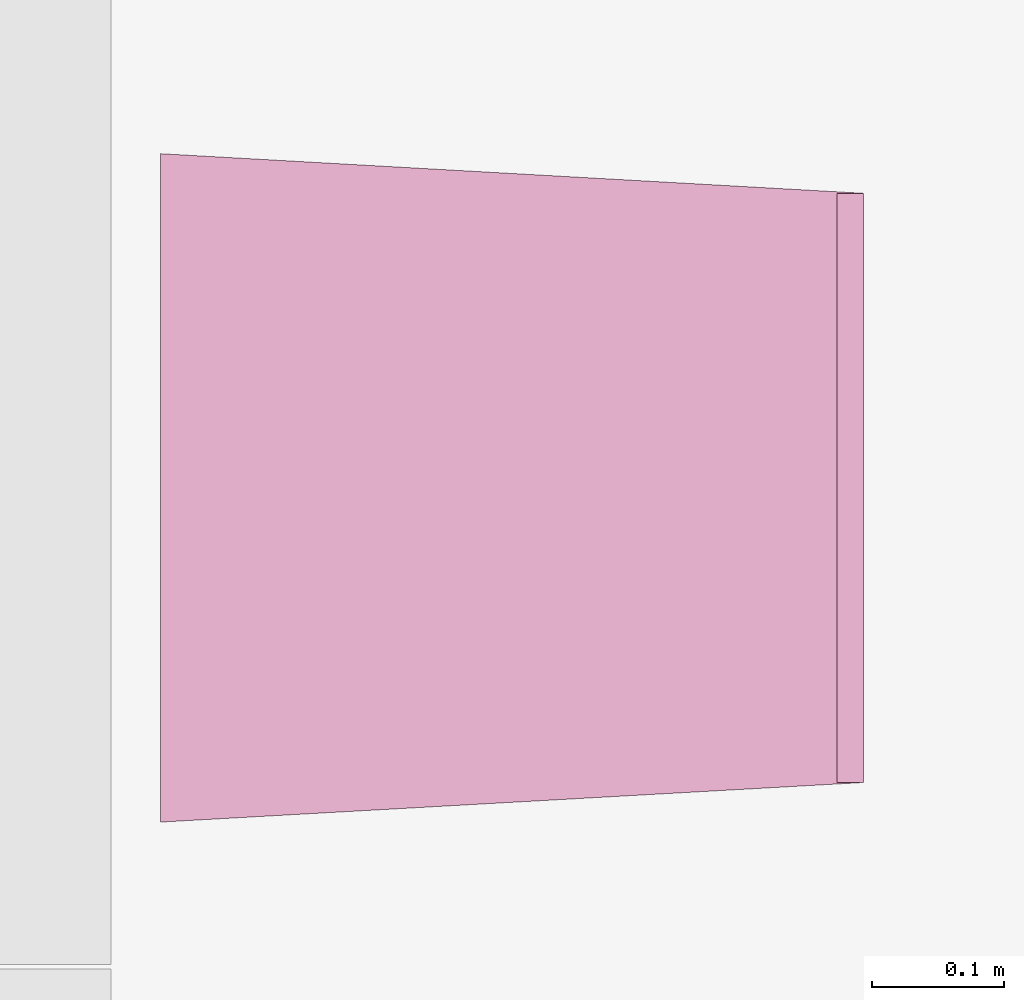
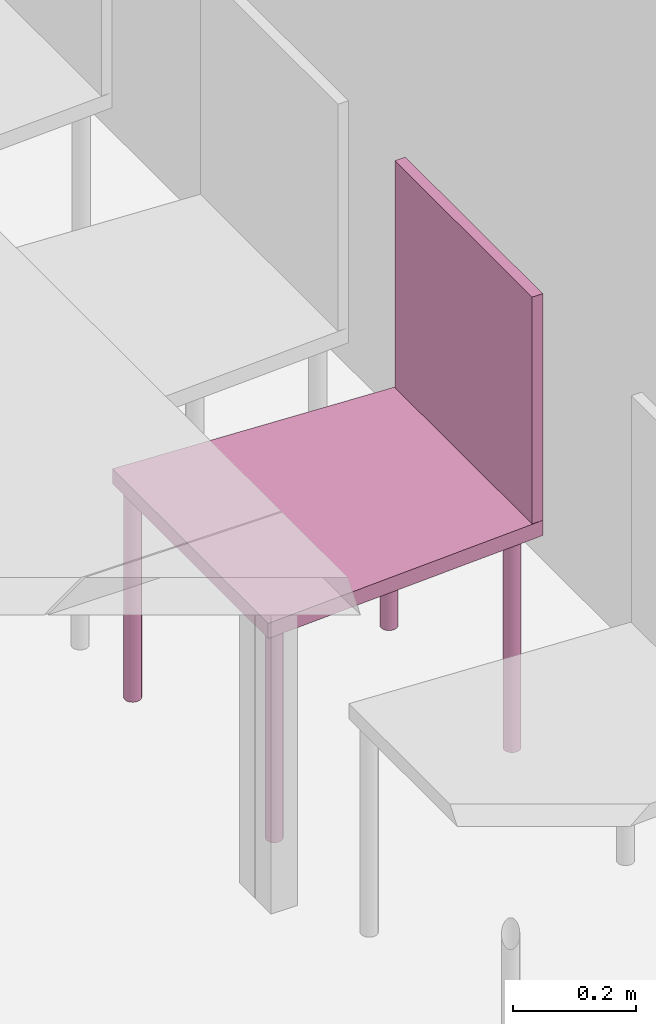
"""IFC4 building model written with IfcOpenShell, lengths in metres."""

from ifc_helpers import new_model, entity, si_unit, converted_unit, derived_unit, frame, origin, place, context, subcontext, project, spatial, faceted_brep, element, save


model = new_model("IFC4")

# Units and contexts
model_context = context("Model", 3, precision=1e-05, world=origin())
body_context = subcontext(model_context, "Body", "Model", "MODEL_VIEW")
ifc_project = project(units=[si_unit("LENGTHUNIT", "METRE"), si_unit("AREAUNIT", "SQUARE_METRE"), si_unit("VOLUMEUNIT", "CUBIC_METRE"), si_unit("MASSUNIT", "GRAM", prefix="KILO"), converted_unit("PLANEANGLEUNIT", "DEGREE", entity("IfcPlaneAngleMeasure", 0.0174532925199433), si_unit("PLANEANGLEUNIT", "RADIAN"), dimensions=[0, 0, 0, 0, 0, 0, 0]), derived_unit("THERMALTRANSMITTANCEUNIT", [(si_unit("POWERUNIT", "WATT"), 1), (si_unit("THERMODYNAMICTEMPERATUREUNIT", "KELVIN"), -1), (si_unit("LENGTHUNIT", "METRE"), -2)]), derived_unit("VOLUMETRICFLOWRATEUNIT", [(si_unit("LENGTHUNIT", "METRE"), 3), (converted_unit("TIMEUNIT", "hour", entity("IfcTimeMeasure", 3600.0), si_unit("TIMEUNIT", "SECOND"), dimensions=[0, 0, 1, 0, 0, 0, 0]), -1), (si_unit("LENGTHUNIT", "METRE"), -1)])], contexts=[model_context])

# Building, storeys
building_placement = place(None, origin())
building = spatial("IfcBuilding", under=ifc_project, at=building_placement, Name="HABITATGE PLURIFAMILIAR", CompositionType="ELEMENT")
storey_1_placement = place(building_placement, frame((0.0, 0.0, 3.35)))
storey_1 = spatial("IfcBuildingStorey", under=building, at=storey_1_placement, Name="PLANTA  ALTELL", CompositionType="ELEMENT", Elevation=3.35)
storey_2_placement = place(storey_1_placement, origin())
storey_2 = spatial("IfcBuildingStorey", under=storey_1, at=storey_2_placement, Name="NOU", CompositionType="PARTIAL")

# Furniture
furniture_placement = place(storey_2_placement, frame((404.789669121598, 14.7607290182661, 0.0499839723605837)))
element("IfcFurniture", 1, at=furniture_placement, inside=storey_2, Name="Cadira confident_PA", context=body_context, shape_type="Brep", body=[
    faceted_brep([(0.0250324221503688, 0.0391636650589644, 0.0), (0.0224394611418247, 0.0389254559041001, 0.0), (0.0199272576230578, 0.038240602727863, 0.0), (0.0175721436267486, 0.0371299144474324, 0.0), (0.0154456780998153, 0.0356271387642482, 0.0), (0.0136124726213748, 0.0337779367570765, 0.0), (0.0121282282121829, 0.0316384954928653, 0.0), (0.0110380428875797, 0.0292738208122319, 0.0), (0.010375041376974, 0.0267557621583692, 0.0), (0.0101593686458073, 0.0241608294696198, 0.0), (0.010397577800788, 0.0215678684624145, 0.0), (0.0110824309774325, 0.0190556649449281, 0.0), (0.0121931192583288, 0.0167005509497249, 0.0), (0.0136958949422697, 0.0145740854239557, 0.0), (0.0155450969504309, 0.0127408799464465, 0.0), (0.0176845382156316, 0.0112566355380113, 0.0), (0.0200492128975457, 0.010166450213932, 0.0), (0.0225672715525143, 0.00950344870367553, 0.0), (0.0251622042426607, 0.00928777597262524, 0.0), (0.0277551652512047, 0.00952598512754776, 0.0), (0.0302673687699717, 0.0102108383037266, 0.0), (0.0326224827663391, 0.0113215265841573, 0.0), (0.0347489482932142, 0.0128243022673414, 0.0), (0.0365821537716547, 0.0146735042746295, 0.0), (0.0380663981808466, 0.0168129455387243, 0.0), (0.0391565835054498, 0.019177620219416, 0.0), (0.0398195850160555, 0.0216956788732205, 0.0), (0.0400352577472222, 0.0242906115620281, 0.0), (0.0397970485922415, 0.0268835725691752, 0.0), (0.0391121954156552, 0.0293957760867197, 0.0), (0.0380015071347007, 0.0317508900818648, 0.0), (0.0364987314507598, 0.0338773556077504, 0.0), (0.0346495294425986, 0.0357105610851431, 0.0), (0.0325100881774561, 0.0371948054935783, 0.0), (0.030145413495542, 0.0382849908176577, 0.0), (0.0276273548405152, 0.0389479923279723, 0.0), (0.0250324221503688, 0.0391636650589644, 0.448281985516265), (0.0276273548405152, 0.0389479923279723, 0.448281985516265), (0.030145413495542, 0.0382849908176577, 0.448281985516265), (0.0325100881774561, 0.0371948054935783, 0.448281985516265), (0.0346495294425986, 0.0357105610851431, 0.448281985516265), (0.0364987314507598, 0.0338773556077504, 0.448281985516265), (0.0380015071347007, 0.0317508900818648, 0.448281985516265), (0.0391121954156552, 0.0293957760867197, 0.448281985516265), (0.0397970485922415, 0.0268835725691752, 0.448281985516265), (0.0400352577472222, 0.0242906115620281, 0.448281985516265), (0.0398195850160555, 0.0216956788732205, 0.448281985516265), (0.0391565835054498, 0.019177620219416, 0.448281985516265), (0.0380663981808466, 0.0168129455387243, 0.448281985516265), (0.0365821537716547, 0.0146735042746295, 0.448281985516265), (0.0347489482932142, 0.0128243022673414, 0.448281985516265), (0.0326224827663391, 0.0113215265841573, 0.448281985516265), (0.0302673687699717, 0.0102108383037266, 0.448281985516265), (0.0277551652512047, 0.00952598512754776, 0.448281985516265), (0.0251622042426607, 0.00928777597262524, 0.448281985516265), (0.0225672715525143, 0.00950344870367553, 0.448281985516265), (0.0200492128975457, 0.010166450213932, 0.448281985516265), (0.0176845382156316, 0.0112566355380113, 0.448281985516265), (0.0155450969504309, 0.0127408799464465, 0.448281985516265), (0.0136958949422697, 0.0145740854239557, 0.448281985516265), (0.0121931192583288, 0.0167005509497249, 0.448281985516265), (0.0110824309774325, 0.0190556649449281, 0.448281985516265), (0.010397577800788, 0.0215678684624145, 0.448281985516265), (0.0101593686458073, 0.0241608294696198, 0.448281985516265), (0.010375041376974, 0.0267557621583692, 0.448281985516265), (0.0110380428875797, 0.0292738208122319, 0.448281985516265), (0.0121282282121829, 0.0316384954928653, 0.448281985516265), (0.0136124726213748, 0.0337779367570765, 0.448281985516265), (0.0154456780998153, 0.0356271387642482, 0.448281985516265), (0.0175721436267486, 0.0371299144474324, 0.448281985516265), (0.0199272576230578, 0.038240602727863, 0.448281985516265), (0.0224394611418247, 0.0389254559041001, 0.448281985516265)], [[[0, 1, 2, 3, 4, 5, 6, 7, 8, 9, 10, 11, 12, 13, 14, 15, 16, 17, 18, 19, 20, 21, 22, 23, 24, 25, 26, 27, 28, 29, 30, 31, 32, 33, 34, 35]], [[36, 37, 38, 39, 40, 41, 42, 43, 44, 45, 46, 47, 48, 49, 50, 51, 52, 53, 54, 55, 56, 57, 58, 59, 60, 61, 62, 63, 64, 65, 66, 67, 68, 69, 70, 71]], [[35, 37, 36, 0]], [[34, 38, 37, 35]], [[33, 39, 38, 34]], [[32, 40, 39, 33]], [[31, 41, 40, 32]], [[30, 42, 41, 31]], [[29, 43, 42, 30]], [[28, 44, 43, 29]], [[27, 45, 44, 28]], [[26, 46, 45, 27]], [[25, 47, 46, 26]], [[24, 48, 47, 25]], [[23, 49, 48, 24]], [[22, 50, 49, 23]], [[21, 51, 50, 22]], [[20, 52, 51, 21]], [[19, 53, 52, 20]], [[18, 54, 53, 19]], [[17, 55, 54, 18]], [[16, 56, 55, 17]], [[15, 57, 56, 16]], [[14, 58, 57, 15]], [[13, 59, 58, 14]], [[12, 60, 59, 13]], [[11, 61, 60, 12]], [[10, 62, 61, 11]], [[9, 63, 62, 10]], [[8, 64, 63, 9]], [[7, 65, 64, 8]], [[6, 66, 65, 7]], [[5, 67, 66, 6]], [[4, 68, 67, 5]], [[3, 69, 68, 4]], [[2, 70, 69, 3]], [[1, 71, 70, 2]], [[0, 36, 71, 1]]], orient=[[False], [False], [False], [False], [False], [False], [False], [False], [False], [False], [False], [False], [False], [False], [False], [False], [False], [False], [False], [False], [False], [False], [False], [False], [False], [False], [False], [False], [False], [False], [False], [False], [False], [False], [False], [False], [False], [False]]),
    faceted_brep([(0.487439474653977, 0.0668016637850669, 0.0), (0.484846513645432, 0.0665634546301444, 0.0), (0.482334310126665, 0.0658786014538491, 0.0), (0.479979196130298, 0.0647679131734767, 0.0), (0.477852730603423, 0.0632651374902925, 0.0), (0.476019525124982, 0.0614159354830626, 0.0), (0.474535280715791, 0.0592764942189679, 0.0), (0.473445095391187, 0.056911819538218, 0.0), (0.472782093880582, 0.0543937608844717, 0.0), (0.472566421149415, 0.0517988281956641, 0.0), (0.472804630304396, 0.0492058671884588, 0.0), (0.473489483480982, 0.0466936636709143, 0.0), (0.474600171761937, 0.0443385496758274, 0.0), (0.476102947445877, 0.0422120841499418, 0.0), (0.477952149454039, 0.0403788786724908, 0.0), (0.480091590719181, 0.0388946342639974, 0.0), (0.482456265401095, 0.0378044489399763, 0.0), (0.484974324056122, 0.0371414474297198, 0.0), (0.487569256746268, 0.0369257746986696, 0.0), (0.490162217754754, 0.0371639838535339, 0.0), (0.492674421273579, 0.0378488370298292, 0.0), (0.495029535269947, 0.0389595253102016, 0.0), (0.497156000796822, 0.0404623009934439, 0.0), (0.498989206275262, 0.0423115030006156, 0.0), (0.500473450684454, 0.0444509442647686, 0.0), (0.501563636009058, 0.0468156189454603, 0.0), (0.502226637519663, 0.0493336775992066, 0.0), (0.50244231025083, 0.0519286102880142, 0.0), (0.502204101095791, 0.0545215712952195, 0.0), (0.501519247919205, 0.057033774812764, 0.0), (0.500408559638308, 0.0593888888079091, 0.0), (0.498905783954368, 0.0615153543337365, 0.0), (0.497056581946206, 0.0633485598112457, 0.0), (0.494917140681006, 0.0648328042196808, 0.0), (0.492552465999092, 0.065922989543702, 0.0), (0.490034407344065, 0.0665859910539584, 0.0), (0.487439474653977, 0.0668016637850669, 0.448281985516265), (0.490034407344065, 0.0665859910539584, 0.448281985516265), (0.492552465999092, 0.065922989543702, 0.448281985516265), (0.494917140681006, 0.0648328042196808, 0.448281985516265), (0.497056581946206, 0.0633485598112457, 0.448281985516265), (0.498905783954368, 0.0615153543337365, 0.448281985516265), (0.500408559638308, 0.0593888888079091, 0.448281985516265), (0.501519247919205, 0.057033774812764, 0.448281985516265), (0.502204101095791, 0.0545215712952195, 0.448281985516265), (0.50244231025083, 0.0519286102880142, 0.448281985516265), (0.502226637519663, 0.0493336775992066, 0.448281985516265), (0.501563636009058, 0.0468156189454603, 0.448281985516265), (0.500473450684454, 0.0444509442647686, 0.448281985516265), (0.498989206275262, 0.0423115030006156, 0.448281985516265), (0.497156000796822, 0.0404623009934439, 0.448281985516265), (0.495029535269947, 0.0389595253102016, 0.448281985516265), (0.492674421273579, 0.0378488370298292, 0.448281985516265), (0.490162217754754, 0.0371639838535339, 0.448281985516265), (0.487569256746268, 0.0369257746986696, 0.448281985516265), (0.484974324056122, 0.0371414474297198, 0.448281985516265), (0.482456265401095, 0.0378044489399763, 0.448281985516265), (0.480091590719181, 0.0388946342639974, 0.448281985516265), (0.477952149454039, 0.0403788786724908, 0.448281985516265), (0.476102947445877, 0.0422120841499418, 0.448281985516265), (0.474600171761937, 0.0443385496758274, 0.448281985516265), (0.473489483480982, 0.0466936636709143, 0.448281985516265), (0.472804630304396, 0.0492058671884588, 0.448281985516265), (0.472566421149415, 0.0517988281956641, 0.448281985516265), (0.472782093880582, 0.0543937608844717, 0.448281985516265), (0.473445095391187, 0.056911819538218, 0.448281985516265), (0.474535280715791, 0.0592764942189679, 0.448281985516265), (0.476019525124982, 0.0614159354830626, 0.448281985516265), (0.477852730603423, 0.0632651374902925, 0.448281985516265), (0.479979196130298, 0.0647679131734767, 0.448281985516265), (0.482334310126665, 0.0658786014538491, 0.448281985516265), (0.484846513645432, 0.0665634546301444, 0.448281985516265)], [[[0, 1, 2, 3, 4, 5, 6, 7, 8, 9, 10, 11, 12, 13, 14, 15, 16, 17, 18, 19, 20, 21, 22, 23, 24, 25, 26, 27, 28, 29, 30, 31, 32, 33, 34, 35]], [[36, 37, 38, 39, 40, 41, 42, 43, 44, 45, 46, 47, 48, 49, 50, 51, 52, 53, 54, 55, 56, 57, 58, 59, 60, 61, 62, 63, 64, 65, 66, 67, 68, 69, 70, 71]], [[35, 37, 36, 0]], [[34, 38, 37, 35]], [[33, 39, 38, 34]], [[32, 40, 39, 33]], [[31, 41, 40, 32]], [[30, 42, 41, 31]], [[29, 43, 42, 30]], [[28, 44, 43, 29]], [[27, 45, 44, 28]], [[26, 46, 45, 27]], [[25, 47, 46, 26]], [[24, 48, 47, 25]], [[23, 49, 48, 24]], [[22, 50, 49, 23]], [[21, 51, 50, 22]], [[20, 52, 51, 21]], [[19, 53, 52, 20]], [[18, 54, 53, 19]], [[17, 55, 54, 18]], [[16, 56, 55, 17]], [[15, 57, 56, 16]], [[14, 58, 57, 15]], [[13, 59, 58, 14]], [[12, 60, 59, 13]], [[11, 61, 60, 12]], [[10, 62, 61, 11]], [[9, 63, 62, 10]], [[8, 64, 63, 9]], [[7, 65, 64, 8]], [[6, 66, 65, 7]], [[5, 67, 66, 6]], [[4, 68, 67, 5]], [[3, 69, 68, 4]], [[2, 70, 69, 3]], [[1, 71, 70, 2]], [[0, 36, 71, 1]]], orient=[[False], [False], [False], [False], [False], [False], [False], [False], [False], [False], [False], [False], [False], [False], [False], [False], [False], [False], [False], [False], [False], [False], [False], [False], [False], [False], [False], [False], [False], [False], [False], [False], [False], [False], [False], [False], [False], [False]]),
    faceted_brep([(0.0250324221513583, 0.499163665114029, 0.0), (0.0224394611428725, 0.498925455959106, 0.0), (0.0199272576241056, 0.498240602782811, 0.0), (0.0175721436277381, 0.497129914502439, 0.0), (0.0154456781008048, 0.495627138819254, 0.0), (0.0136124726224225, 0.493777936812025, 0.0), (0.0121282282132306, 0.491638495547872, 0.0), (0.0110380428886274, 0.489273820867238, 0.0), (0.0103750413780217, 0.486755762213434, 0.0), (0.0101593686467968, 0.484160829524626, 0.0), (0.0103975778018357, 0.481567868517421, 0.0), (0.0110824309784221, 0.479055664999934, 0.0), (0.0121931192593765, 0.476700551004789, 0.0), (0.0136958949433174, 0.474574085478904, 0.0), (0.0155450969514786, 0.472740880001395, 0.0), (0.0176845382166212, 0.471256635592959, 0.0), (0.0200492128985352, 0.470166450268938, 0.0), (0.022567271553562, 0.469503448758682, 0.0), (0.0251622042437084, 0.469287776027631, 0.0), (0.0277551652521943, 0.469525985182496, 0.0), (0.0302673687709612, 0.470210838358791, 0.0), (0.0326224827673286, 0.471321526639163, 0.0), (0.0347489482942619, 0.472824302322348, 0.0), (0.0365821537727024, 0.474673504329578, 0.0), (0.0380663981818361, 0.476812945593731, 0.0), (0.0391565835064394, 0.479177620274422, 0.0), (0.039819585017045, 0.481695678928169, 0.0), (0.0400352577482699, 0.484290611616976, 0.0), (0.039797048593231, 0.486883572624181, 0.0), (0.0391121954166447, 0.489395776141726, 0.0), (0.0380015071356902, 0.491750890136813, 0.0), (0.0364987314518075, 0.493877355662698, 0.0), (0.0346495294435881, 0.495710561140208, 0.0), (0.0325100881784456, 0.497194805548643, 0.0), (0.0301454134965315, 0.498284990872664, 0.0), (0.0276273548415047, 0.49894799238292, 0.0), (0.0250324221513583, 0.499163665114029, 0.448281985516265), (0.0276273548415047, 0.49894799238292, 0.448281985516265), (0.0301454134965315, 0.498284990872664, 0.448281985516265), (0.0325100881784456, 0.497194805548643, 0.448281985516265), (0.0346495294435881, 0.495710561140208, 0.448281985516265), (0.0364987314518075, 0.493877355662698, 0.448281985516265), (0.0380015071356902, 0.491750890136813, 0.448281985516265), (0.0391121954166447, 0.489395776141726, 0.448281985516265), (0.039797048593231, 0.486883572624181, 0.448281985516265), (0.0400352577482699, 0.484290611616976, 0.448281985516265), (0.039819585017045, 0.481695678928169, 0.448281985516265), (0.0391565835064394, 0.479177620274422, 0.448281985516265), (0.0380663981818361, 0.476812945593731, 0.448281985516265), (0.0365821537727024, 0.474673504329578, 0.448281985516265), (0.0347489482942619, 0.472824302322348, 0.448281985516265), (0.0326224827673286, 0.471321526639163, 0.448281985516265), (0.0302673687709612, 0.470210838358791, 0.448281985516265), (0.0277551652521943, 0.469525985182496, 0.448281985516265), (0.0251622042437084, 0.469287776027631, 0.448281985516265), (0.022567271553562, 0.469503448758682, 0.448281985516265), (0.0200492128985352, 0.470166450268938, 0.448281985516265), (0.0176845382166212, 0.471256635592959, 0.448281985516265), (0.0155450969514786, 0.472740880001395, 0.448281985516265), (0.0136958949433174, 0.474574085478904, 0.448281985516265), (0.0121931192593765, 0.476700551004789, 0.448281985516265), (0.0110824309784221, 0.479055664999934, 0.448281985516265), (0.0103975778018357, 0.481567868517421, 0.448281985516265), (0.0101593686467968, 0.484160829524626, 0.448281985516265), (0.0103750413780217, 0.486755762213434, 0.448281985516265), (0.0110380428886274, 0.489273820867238, 0.448281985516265), (0.0121282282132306, 0.491638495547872, 0.448281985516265), (0.0136124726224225, 0.493777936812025, 0.448281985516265), (0.0154456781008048, 0.495627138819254, 0.448281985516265), (0.0175721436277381, 0.497129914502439, 0.448281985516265), (0.0199272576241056, 0.498240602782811, 0.448281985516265), (0.0224394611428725, 0.498925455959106, 0.448281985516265)], [[[0, 1, 2, 3, 4, 5, 6, 7, 8, 9, 10, 11, 12, 13, 14, 15, 16, 17, 18, 19, 20, 21, 22, 23, 24, 25, 26, 27, 28, 29, 30, 31, 32, 33, 34, 35]], [[36, 37, 38, 39, 40, 41, 42, 43, 44, 45, 46, 47, 48, 49, 50, 51, 52, 53, 54, 55, 56, 57, 58, 59, 60, 61, 62, 63, 64, 65, 66, 67, 68, 69, 70, 71]], [[35, 37, 36, 0]], [[34, 38, 37, 35]], [[33, 39, 38, 34]], [[32, 40, 39, 33]], [[31, 41, 40, 32]], [[30, 42, 41, 31]], [[29, 43, 42, 30]], [[28, 44, 43, 29]], [[27, 45, 44, 28]], [[26, 46, 45, 27]], [[25, 47, 46, 26]], [[24, 48, 47, 25]], [[23, 49, 48, 24]], [[22, 50, 49, 23]], [[21, 51, 50, 22]], [[20, 52, 51, 21]], [[19, 53, 52, 20]], [[18, 54, 53, 19]], [[17, 55, 54, 18]], [[16, 56, 55, 17]], [[15, 57, 56, 16]], [[14, 58, 57, 15]], [[13, 59, 58, 14]], [[12, 60, 59, 13]], [[11, 61, 60, 12]], [[10, 62, 61, 11]], [[9, 63, 62, 10]], [[8, 64, 63, 9]], [[7, 65, 64, 8]], [[6, 66, 65, 7]], [[5, 67, 66, 6]], [[4, 68, 67, 5]], [[3, 69, 68, 4]], [[2, 70, 69, 3]], [[1, 71, 70, 2]], [[0, 36, 71, 1]]], orient=[[False], [False], [False], [False], [False], [False], [False], [False], [False], [False], [False], [False], [False], [False], [False], [False], [False], [False], [False], [False], [False], [False], [False], [False], [False], [False], [False], [False], [False], [False], [False], [False], [False], [False], [False], [False], [False], [False]]),
    faceted_brep([(0.48743947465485, 0.466801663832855, 0.0), (0.484846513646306, 0.466563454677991, 0.0), (0.482334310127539, 0.465878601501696, 0.0), (0.479979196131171, 0.464767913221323, 0.0), (0.477852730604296, 0.463265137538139, 0.0), (0.476019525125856, 0.461415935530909, 0.0), (0.474535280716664, 0.459276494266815, 0.0), (0.47344509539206, 0.456911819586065, 0.0), (0.472782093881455, 0.454393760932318, 0.0), (0.472566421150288, 0.451798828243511, 0.0), (0.472804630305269, 0.449205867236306, 0.0), (0.473489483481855, 0.446693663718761, 0.0), (0.47460017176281, 0.444338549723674, 0.0), (0.47610294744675, 0.442212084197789, 0.0), (0.477952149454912, 0.440378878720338, 0.0), (0.480091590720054, 0.438894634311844, 0.0), (0.482456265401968, 0.437804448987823, 0.0), (0.484974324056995, 0.437141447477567, 0.0), (0.487569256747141, 0.436925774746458, 0.0), (0.490162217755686, 0.437163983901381, 0.0), (0.492674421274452, 0.437848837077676, 0.0), (0.495029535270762, 0.438959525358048, 0.0), (0.497156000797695, 0.440462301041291, 0.0), (0.498989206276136, 0.442311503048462, 0.0), (0.500473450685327, 0.444450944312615, 0.0), (0.501563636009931, 0.446815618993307, 0.0), (0.502226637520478, 0.449333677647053, 0.0), (0.502442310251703, 0.451928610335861, 0.0), (0.502204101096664, 0.454521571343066, 0.0), (0.501519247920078, 0.457033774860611, 0.0), (0.500408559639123, 0.459388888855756, 0.0), (0.498905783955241, 0.461515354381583, 0.0), (0.497056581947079, 0.463348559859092, 0.0), (0.494917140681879, 0.464832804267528, 0.0), (0.492552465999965, 0.465922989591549, 0.0), (0.490034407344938, 0.466585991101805, 0.0), (0.48743947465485, 0.466801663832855, 0.448281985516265), (0.490034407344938, 0.466585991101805, 0.448281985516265), (0.492552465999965, 0.465922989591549, 0.448281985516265), (0.494917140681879, 0.464832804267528, 0.448281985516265), (0.497056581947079, 0.463348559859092, 0.448281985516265), (0.498905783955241, 0.461515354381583, 0.448281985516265), (0.500408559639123, 0.459388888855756, 0.448281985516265), (0.501519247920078, 0.457033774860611, 0.448281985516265), (0.502204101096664, 0.454521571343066, 0.448281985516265), (0.502442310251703, 0.451928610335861, 0.448281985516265), (0.502226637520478, 0.449333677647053, 0.448281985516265), (0.501563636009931, 0.446815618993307, 0.448281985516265), (0.500473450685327, 0.444450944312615, 0.448281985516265), (0.498989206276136, 0.442311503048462, 0.448281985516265), (0.497156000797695, 0.440462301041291, 0.448281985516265), (0.495029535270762, 0.438959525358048, 0.448281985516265), (0.492674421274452, 0.437848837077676, 0.448281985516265), (0.490162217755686, 0.437163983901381, 0.448281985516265), (0.487569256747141, 0.436925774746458, 0.448281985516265), (0.484974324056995, 0.437141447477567, 0.448281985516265), (0.482456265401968, 0.437804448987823, 0.448281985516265), (0.480091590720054, 0.438894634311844, 0.448281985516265), (0.477952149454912, 0.440378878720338, 0.448281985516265), (0.47610294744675, 0.442212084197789, 0.448281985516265), (0.47460017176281, 0.444338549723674, 0.448281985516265), (0.473489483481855, 0.446693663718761, 0.448281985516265), (0.472804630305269, 0.449205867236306, 0.448281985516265), (0.472566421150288, 0.451798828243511, 0.448281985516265), (0.472782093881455, 0.454393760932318, 0.448281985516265), (0.47344509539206, 0.456911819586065, 0.448281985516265), (0.474535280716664, 0.459276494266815, 0.448281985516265), (0.476019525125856, 0.461415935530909, 0.448281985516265), (0.477852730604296, 0.463265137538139, 0.448281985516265), (0.479979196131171, 0.464767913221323, 0.448281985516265), (0.482334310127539, 0.465878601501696, 0.448281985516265), (0.484846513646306, 0.466563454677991, 0.448281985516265)], [[[0, 1, 2, 3, 4, 5, 6, 7, 8, 9, 10, 11, 12, 13, 14, 15, 16, 17, 18, 19, 20, 21, 22, 23, 24, 25, 26, 27, 28, 29, 30, 31, 32, 33, 34, 35]], [[36, 37, 38, 39, 40, 41, 42, 43, 44, 45, 46, 47, 48, 49, 50, 51, 52, 53, 54, 55, 56, 57, 58, 59, 60, 61, 62, 63, 64, 65, 66, 67, 68, 69, 70, 71]], [[35, 37, 36, 0]], [[34, 38, 37, 35]], [[33, 39, 38, 34]], [[32, 40, 39, 33]], [[31, 41, 40, 32]], [[30, 42, 41, 31]], [[29, 43, 42, 30]], [[28, 44, 43, 29]], [[27, 45, 44, 28]], [[26, 46, 45, 27]], [[25, 47, 46, 26]], [[24, 48, 47, 25]], [[23, 49, 48, 24]], [[22, 50, 49, 23]], [[21, 51, 50, 22]], [[20, 52, 51, 21]], [[19, 53, 52, 20]], [[18, 54, 53, 19]], [[17, 55, 54, 18]], [[16, 56, 55, 17]], [[15, 57, 56, 16]], [[14, 58, 57, 15]], [[13, 59, 58, 14]], [[12, 60, 59, 13]], [[11, 61, 60, 12]], [[10, 62, 61, 11]], [[9, 63, 62, 10]], [[8, 64, 63, 9]], [[7, 65, 64, 8]], [[6, 66, 65, 7]], [[5, 67, 66, 6]], [[4, 68, 67, 5]], [[3, 69, 68, 4]], [[2, 70, 69, 3]], [[1, 71, 70, 2]], [[0, 36, 71, 1]]], orient=[[False], [False], [False], [False], [False], [False], [False], [False], [False], [False], [False], [False], [False], [False], [False], [False], [False], [False], [False], [False], [False], [False], [False], [False], [False], [False], [False], [False], [False], [False], [False], [False], [False], [False], [False], [False], [False], [False]]),
    faceted_brep([(0.532607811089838, 0.476514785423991, 0.418281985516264), (0.0, 0.506514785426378, 0.418281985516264), (0.0, 0.0, 0.418281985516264), (0.532607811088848, 0.0300000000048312, 0.418281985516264), (0.0, 0.506514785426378, 0.448281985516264), (0.532607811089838, 0.476514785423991, 0.448281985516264), (0.532607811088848, 0.0300000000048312, 0.448281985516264), (0.0, 0.0, 0.448281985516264)], [[[0, 1, 2, 3]], [[4, 5, 6, 7]], [[1, 0, 5, 4]], [[2, 1, 4, 7]], [[3, 2, 7, 6]], [[0, 3, 6, 5]]], orient=[[False], [False], [False], [False], [False], [False]]),
    faceted_brep([(0.512607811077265, 0.476514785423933, 0.448281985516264), (0.512607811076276, 0.0300000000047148, 0.448281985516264), (0.53260781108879, 0.0300000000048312, 0.448281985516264), (0.53260781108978, 0.476514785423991, 0.448281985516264), (0.512607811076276, 0.0300000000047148, 0.898281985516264), (0.512607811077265, 0.476514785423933, 0.898281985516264), (0.53260781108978, 0.476514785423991, 0.898281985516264), (0.53260781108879, 0.0300000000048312, 0.898281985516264)], [[[0, 1, 2, 3]], [[4, 5, 6, 7]], [[1, 0, 5, 4]], [[2, 1, 4, 7]], [[3, 2, 7, 6]], [[0, 3, 6, 5]]], orient=[[False], [False], [False], [False], [False], [False]]),
])

save(model, "model.ifc")
